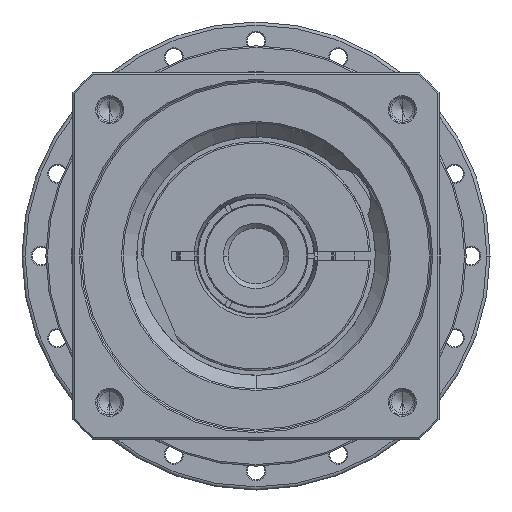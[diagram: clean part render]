
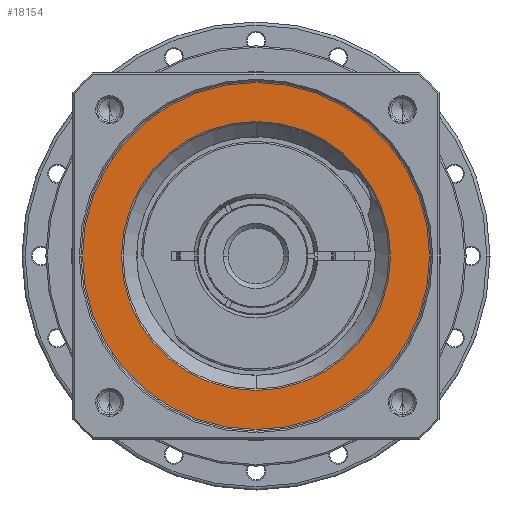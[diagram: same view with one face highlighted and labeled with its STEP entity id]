
A CAD part, left-side view. The second image highlights one B-rep face of the part: STEP entity #18154.
In plain terms, the highlighted planar face has unit normal (-1, 0, 0) as drawn and (0, 0, 1) by its records, which use the part's own axes.
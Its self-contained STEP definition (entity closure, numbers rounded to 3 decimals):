
#16981=CARTESIAN_POINT('',(0.,0.,32.));
#16982=DIRECTION('',(0.,0.,-1.));
#16983=DIRECTION('',(0.,-1.,0.));
#16984=AXIS2_PLACEMENT_3D('',#16981,#16982,#16983);
#16986=CARTESIAN_POINT('',(0.,0.,32.));
#16987=DIRECTION('',(0.,0.,-1.));
#16988=DIRECTION('',(0.,1.,0.));
#16989=AXIS2_PLACEMENT_3D('',#16986,#16987,#16988);
#16991=CARTESIAN_POINT('',(0.,0.,
32.));
#16992=DIRECTION('',(0.,0.,-1.));
#16993=DIRECTION('',(1.,0.,0.));
#16994=AXIS2_PLACEMENT_3D('',#16991,#16992,#16993);
#16996=CARTESIAN_POINT('',(0.,0.,
32.));
#16997=DIRECTION('',(0.,0.,-1.));
#16998=DIRECTION('',(-1.,0.,0.));
#16999=AXIS2_PLACEMENT_3D('',#16996,#16997,#16998);
#17892=CARTESIAN_POINT('',(0.,-54.5,32.));
#17893=CARTESIAN_POINT('',(0.,54.5,32.));
#17894=VERTEX_POINT('',#17892);
#17895=VERTEX_POINT('',#17893);
#17928=CARTESIAN_POINT('',(42.25,0.,32.));
#17929=CARTESIAN_POINT('',(-42.25,0.,
32.));
#17930=VERTEX_POINT('',#17928);
#17931=VERTEX_POINT('',#17929);
#18138=CARTESIAN_POINT('',(0.,0.,32.));
#18139=DIRECTION('',(0.,0.,-1.));
#18140=DIRECTION('',(0.,-1.,0.));
#18141=AXIS2_PLACEMENT_3D('',#18138,#18139,#18140);
#18142=PLANE('',#18141);
#18144=ORIENTED_EDGE('',*,*,#18143,.T.);
#18146=ORIENTED_EDGE('',*,*,#18145,.T.);
#18147=EDGE_LOOP('',(#18144,#18146));
#18148=FACE_OUTER_BOUND('',#18147,.F.);
#18149=ORIENTED_EDGE('',*,*,#18128,.F.);
#18151=ORIENTED_EDGE('',*,*,#18150,.F.);
#18152=EDGE_LOOP('',(#18149,#18151));
#18153=FACE_BOUND('',#18152,.F.);
#18154=ADVANCED_FACE('',(#18148,#18153),#18142,.F.);
#16985=CIRCLE('',#16984,54.5);
#16990=CIRCLE('',#16989,54.5);
#16995=CIRCLE('',#16994,42.25);
#17000=CIRCLE('',#16999,42.25);
#18128=EDGE_CURVE('',#17930,#17931,#16995,.T.);
#18143=EDGE_CURVE('',#17894,#17895,#16985,.T.);
#18145=EDGE_CURVE('',#17895,#17894,#16990,.T.);
#18150=EDGE_CURVE('',#17931,#17930,#17000,.T.);
